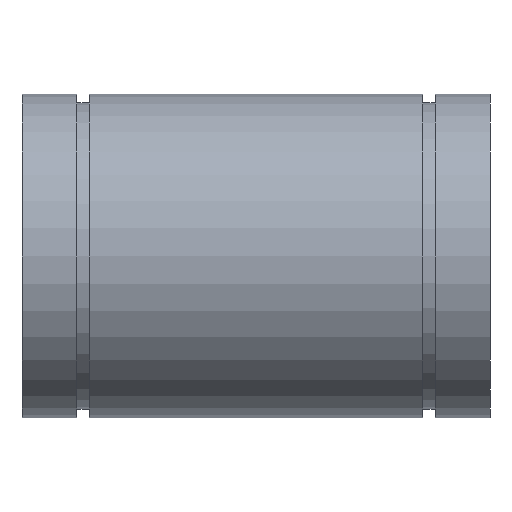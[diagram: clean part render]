
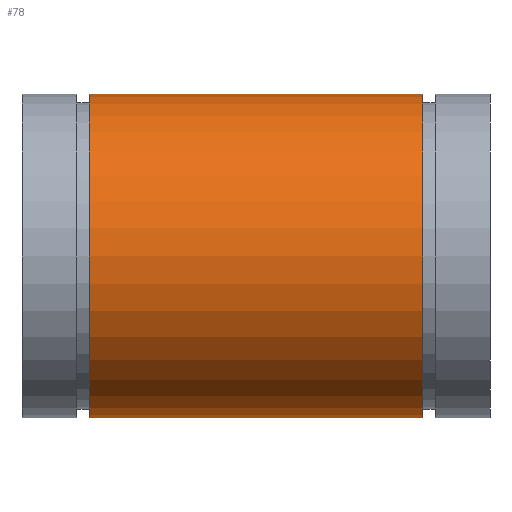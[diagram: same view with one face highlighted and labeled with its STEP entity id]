
A CAD part, front view. The second image highlights one B-rep face of the part: STEP entity #78.
In plain terms, the highlighted cylindrical face has radius 23.5 mm (diameter 47 mm), a full revolution.
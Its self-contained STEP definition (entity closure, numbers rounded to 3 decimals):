
#78 = ADVANCED_FACE( '', ( #97, #98 ), #99, .T. );
#97 = FACE_OUTER_BOUND( '', #133, .T. );
#98 = FACE_OUTER_BOUND( '', #134, .T. );
#99 = CYLINDRICAL_SURFACE( '', #135, 23.5 );
#133 = EDGE_LOOP( '', ( #175 ) );
#134 = EDGE_LOOP( '', ( #176 ) );
#135 = AXIS2_PLACEMENT_3D( '', #177, #178, #179 );
#175 = ORIENTED_EDGE( '', *, *, #224, .T. );
#176 = ORIENTED_EDGE( '', *, *, #223, .F. );
#177 = CARTESIAN_POINT( '', ( 68., 0., 0. ) );
#178 = DIRECTION( '', ( -1., 0., 0. ) );
#179 = DIRECTION( '', ( 0., 0., -1. ) );
#223 = EDGE_CURVE( '', #238, #238, #239, .T. );
#224 = EDGE_CURVE( '', #240, #240, #241, .T. );
#238 = VERTEX_POINT( '', #262 );
#239 = CIRCLE( '', #263, 23.5 );
#240 = VERTEX_POINT( '', #264 );
#241 = CIRCLE( '', #265, 23.5 );
#262 = CARTESIAN_POINT( '', ( 58.2, 0., -23.5 ) );
#263 = AXIS2_PLACEMENT_3D( '', #289, #290, #291 );
#264 = CARTESIAN_POINT( '', ( 9.8, 0., -23.5 ) );
#265 = AXIS2_PLACEMENT_3D( '', #292, #293, #294 );
#289 = CARTESIAN_POINT( '', ( 58.2, 0., 0. ) );
#290 = DIRECTION( '', ( 1., 0., 0. ) );
#291 = DIRECTION( '', ( 0., 0., -1. ) );
#292 = CARTESIAN_POINT( '', ( 9.8, 0., 0. ) );
#293 = DIRECTION( '', ( 1., 0., 0. ) );
#294 = DIRECTION( '', ( 0., 0., -1. ) );
